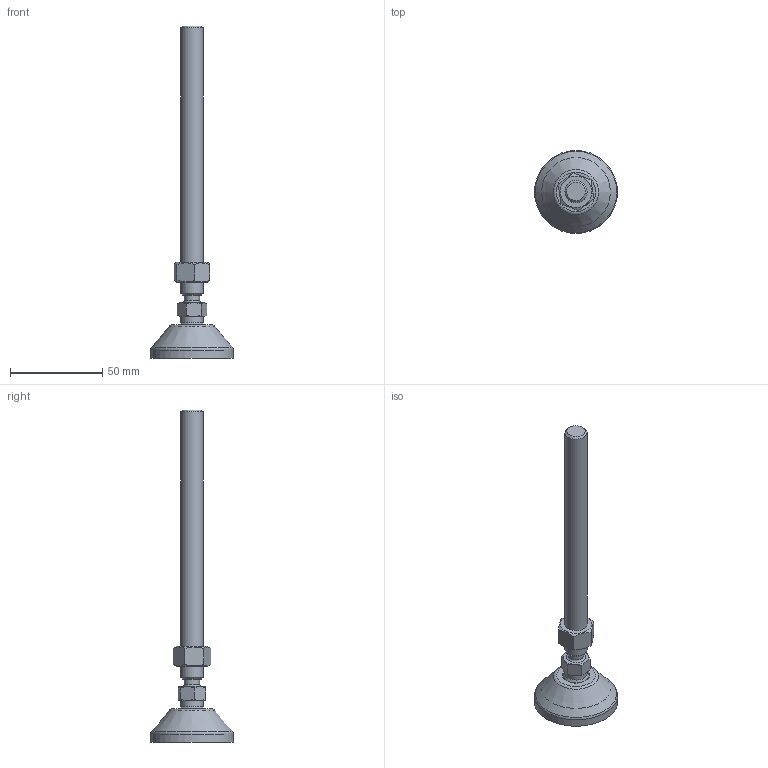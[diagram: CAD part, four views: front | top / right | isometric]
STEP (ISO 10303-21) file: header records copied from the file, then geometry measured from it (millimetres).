
FILE_DESCRIPTION(('STEP AP203'), '1');
FILE_NAME('栖闉罻', '', ('UNSPECIFIED'), ('UNSPECIFIED'), 'C3D Converter', 'C3D Toolkit', '');
FILE_SCHEMA(('CONFIG_CONTROL_DESIGN'));
Length unit declared in the file: millimetre
Products named in the file (4): A00015.1045; A00020.112150
Assembly tree (3 placements, depth 3):
  (unnamed)
    A00015.1045
    A00020.112150
      (unnamed)
Bounding box: 45 x 45 x 180 mm (x, y, z)
Volume: 33997.1 mm3; surface area: 14901.5 mm2
Topology: 3 solids, 3 shells, 141 faces, 380 edges, 250 vertices
Faces by surface type: plane 79, cylinder 26, cone 21, torus 13, sphere 2
Full cylindrical faces by diameter (mm): 8.3 x1, 10.647 x1, 12 x2, 14.3 x1, 15 x2, 15.5 x1, 37.3 x1, 45 x1
Entity records: 7715 total; most frequent: CARTESIAN_POINT 2951, DIRECTION 716, ORIENTED_EDGE 706, EDGE_CURVE 353, AXIS2_PLACEMENT_3D 288, VERTEX_POINT 249, EDGE_LOOP 174, FACE_BOUND 150
